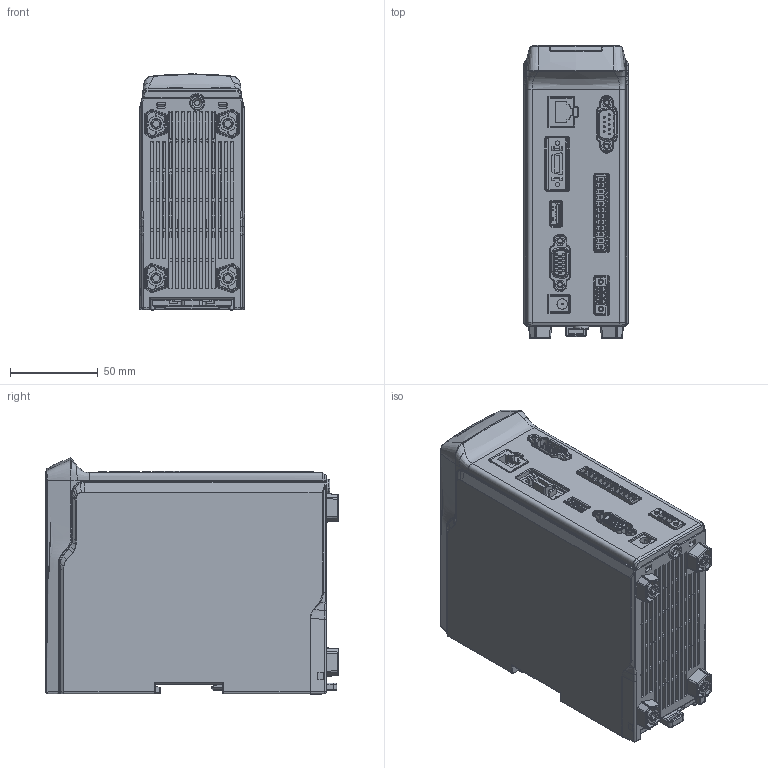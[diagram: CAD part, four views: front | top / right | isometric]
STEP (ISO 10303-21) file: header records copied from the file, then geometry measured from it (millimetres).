
FILE_DESCRIPTION (( 'STEP AP203' ), '1' );
FILE_NAME ('Assem3.51.STEP', '2022-11-13T12:00:16', ( 'suruga' ), ( '' ), 'SwSTEP 2.0', 'SolidWorks 2017', '' );
FILE_SCHEMA (( 'CONFIG_CONTROL_DESIGN' ));
Products named in the file (1): Assem3.51
Bounding box: 60 x 167.03 x 134.63 mm (x, y, z)
Volume: 1162887.8 mm3; surface area: 233085.4 mm2
Topology: 17 solids, 18 shells, 5214 faces, 13992 edges, 8976 vertices
Faces by surface type: plane 3008, cylinder 1381, bspline 429, torus 182, cone 166, sphere 48
Entity records: 184444 total; most frequent: CARTESIAN_POINT 57728, ORIENTED_EDGE 27838, DIRECTION 23902, EDGE_CURVE 13919, VECTOR 9540, LINE 9540, VERTEX_POINT 8961, AXIS2_PLACEMENT_3D 7181
